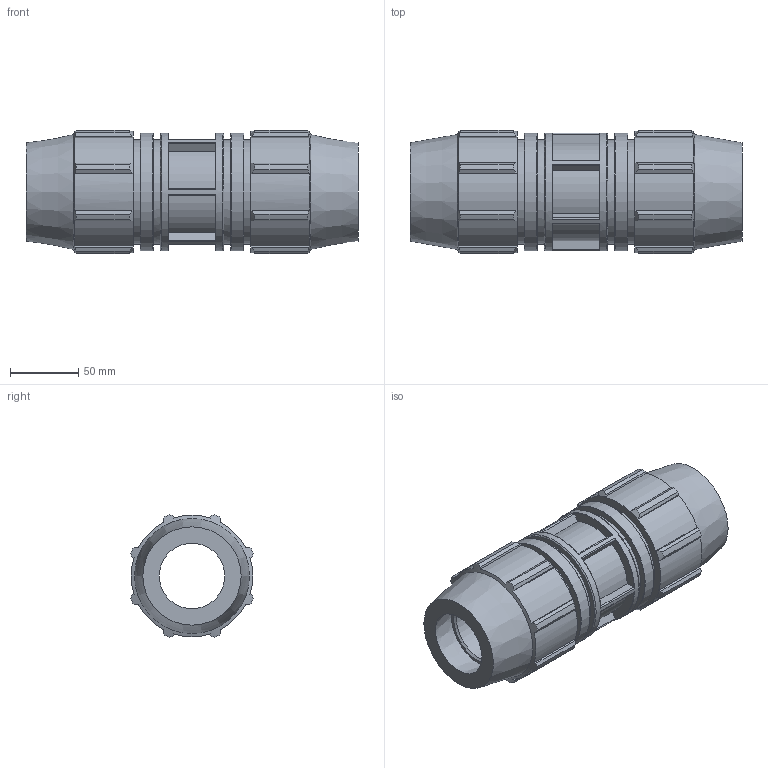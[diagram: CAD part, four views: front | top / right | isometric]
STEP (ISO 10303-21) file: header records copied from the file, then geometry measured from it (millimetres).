
FILE_DESCRIPTION(/* description */ ('PLASSON REPAIR COUPLER 1 1/2'''' - 1 1/2'''''),/* implementation_level */ '2;1');
FILE_NAME(/* name */ 'C:\Dropbox\KIMPROJECTS-Inventor 2019\99-16-3568-Processing Inch\ASTM Compression 2021\0761M\0761M0015.ipt.stp',/* time_stamp */ '2021-08-26T12:34:43+03:00',/* author */ ('KIM'),/* organization */ (''),/* preprocessor_version */ 'ST-DEVELOPER v17.2',/* originating_system */ 'Autodesk Inventor 2019',/* authorisation */ '');
FILE_SCHEMA (('AUTOMOTIVE_DESIGN { 1 0 10303 214 3 1 1 }'));
Length unit declared in the file: inch
Products named in the file (1): 0761M0015
Bounding box: 243.84 x 90.34 x 90.34 mm (x, y, z)
Volume: 870854.9 mm3; surface area: 127133.6 mm2
Topology: 1 solids, 1 shells, 200 faces, 572 edges, 390 vertices
Faces by surface type: plane 100, cylinder 58, cone 24, torus 18
Full cylindrical faces by diameter (mm): 48.1 x1, 76.81 x4, 86.411 x3
Entity records: 6791 total; most frequent: CARTESIAN_POINT 1507, ORIENTED_EDGE 1144, DIRECTION 1102, EDGE_CURVE 572, AXIS2_PLACEMENT_3D 417, VERTEX_POINT 390, LINE 268, VECTOR 268
